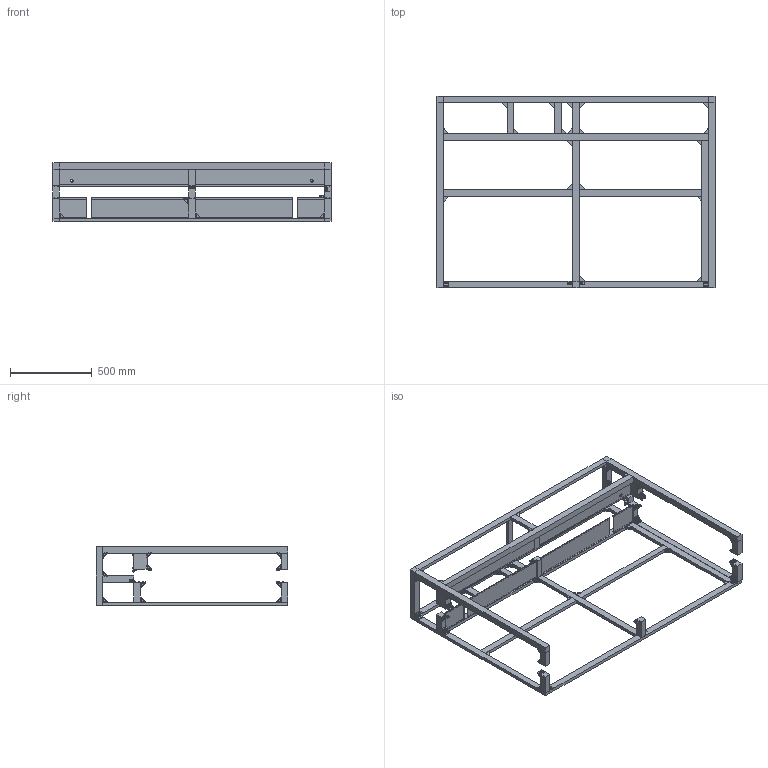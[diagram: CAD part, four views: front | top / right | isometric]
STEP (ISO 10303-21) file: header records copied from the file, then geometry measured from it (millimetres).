
FILE_DESCRIPTION(/* description */ (''),/* implementation_level */ '2;1');
FILE_NAME(/* name */ 'frame-outer',/* time_stamp */ '2013-11-26T23:52:19+01:00',/* author */ (''),/* organization */ (''),/* preprocessor_version */ 'ST-DEVELOPER v14',/* originating_system */ '',/* authorisation */ '');
FILE_SCHEMA (('AUTOMOTIVE_DESIGN'));
Products named in the file (9): Document; nut tslot, post, M5; screw DIN912-like, M5x10; angle bracket, semi, double; angle bracket, single; tslot nut, pre, M5; washer DIN6797, lock, M5; screw DIN912, cap, M5x10; plate bracket, double
Assembly tree (177 placements, depth 2):
  Document
    nut tslot, post, M5  x66
    screw DIN912-like, M5x10  x66
    angle bracket, semi, double  x13
    angle bracket, single  x7
    tslot nut, pre, M5  x4
    washer DIN6797, lock, M5  x16
    screw DIN912, cap, M5x10  x4
    plate bracket, double
Bounding box: 1700 x 1170 x 360 mm (x, y, z)
Volume: 22483197.2 mm3; surface area: 4208491.3 mm2
Topology: 479 solids, 479 shells, 10659 faces, 26865 edges, 17172 vertices
Faces by surface type: plane 7194, bspline 3465
Entity records: 402038 total; most frequent: CARTESIAN_POINT 186153, B_SPLINE_CURVE_WITH_KNOTS 37915, ORIENTED_EDGE 32106, PCURVE 32106, DEFINITIONAL_REPRESENTATION 32106, SURFACE_CURVE 16053, EDGE_CURVE 16053, VERTEX_POINT 10383
